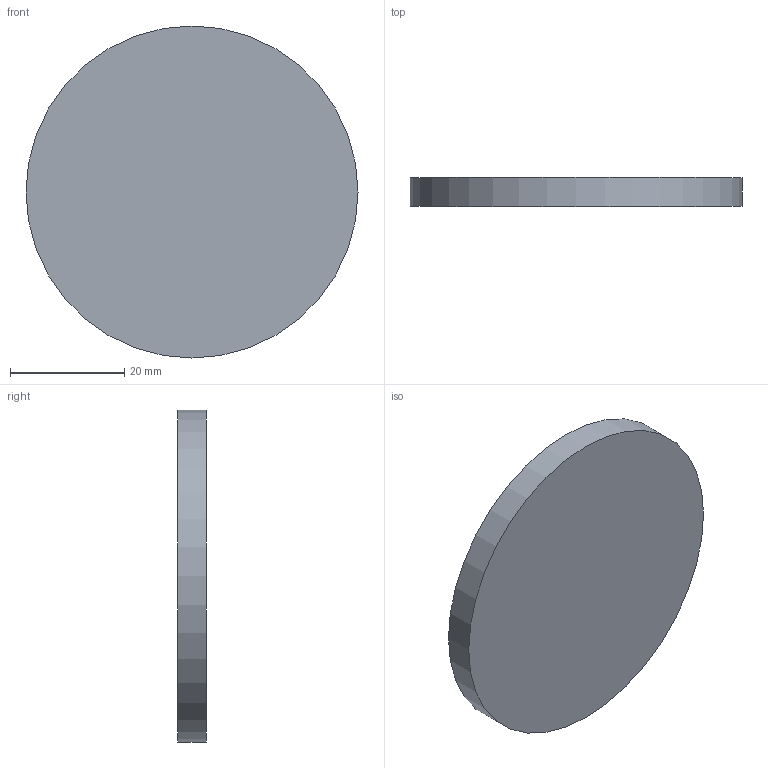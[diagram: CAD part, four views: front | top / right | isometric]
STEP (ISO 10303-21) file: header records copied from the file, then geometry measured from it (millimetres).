
FILE_DESCRIPTION(('Open CASCADE Model'),'2;1');
FILE_NAME('Open CASCADE Shape Model','2026-10-17T16:45:03',('Author'),( 'Open CASCADE'),'Open CASCADE STEP processor 8.0','build123d', 'Unknown');
FILE_SCHEMA(('AUTOMOTIVE_DESIGN { 1 0 10303 214 1 1 1 1 }'));
Length unit declared in the file: millimetre
Products named in the file (2): =>[0:1:1:2]; COMPOUND
Assembly tree (1 placements, depth 2):
  =>[0:1:1:2]
    COMPOUND
Bounding box: 58 x 5 x 58 mm (x, y, z)
Volume: 13210.4 mm3; surface area: 6195.2 mm2
Topology: 1 solids, 1 shells, 3 faces, 3 edges, 2 vertices
Faces by surface type: plane 2, cylinder 1
Full cylindrical faces by diameter (mm): 58 x1
Entity records: 126 total; most frequent: DIRECTION 21, CARTESIAN_POINT 16, AXIS2_PLACEMENT_3D 7, ORIENTED_EDGE 6, PCURVE 6, DEFINITIONAL_REPRESENTATION 6, LINE 5, VECTOR 5
